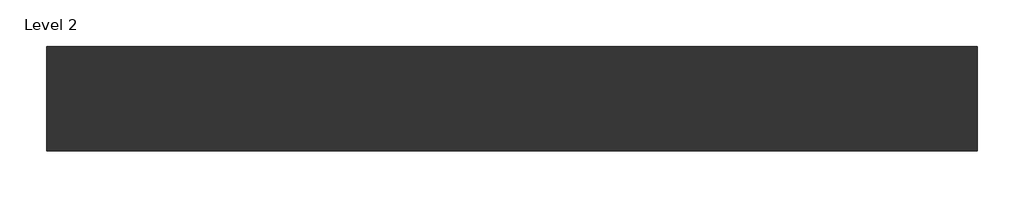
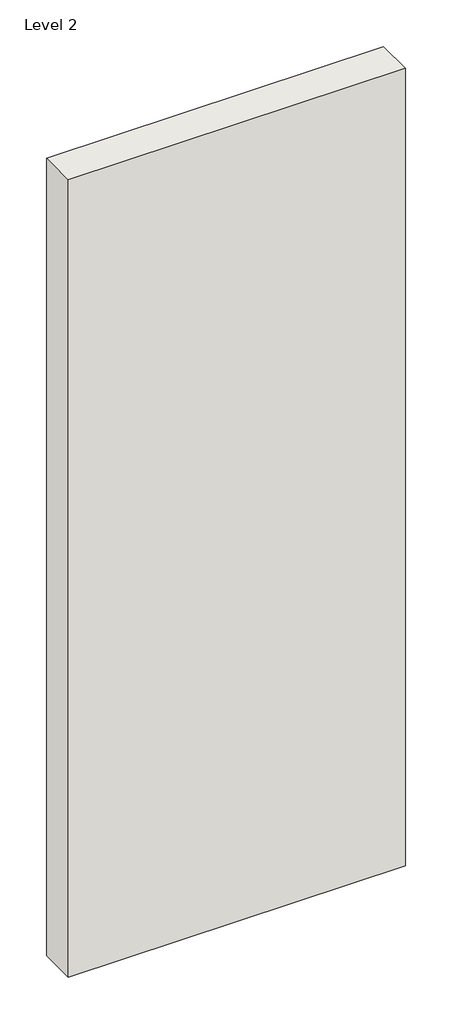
# One storey: 1 wall.
"""IFC4 building model written with IfcOpenShell, lengths in millimetres."""

from ifc_helpers import new_model, si_unit, frame, origin, place, context, project, spatial, polyline, outline, extrude, element, save

model = new_model("IFC4")

# Units and contexts
model_context = context("Model", 3, world=origin())
ifc_project = project(units=[si_unit("LENGTHUNIT", "METRE", prefix="MILLI")], contexts=[model_context])

# Site, building, storey
site = spatial("IfcSite", under=ifc_project)
building = spatial("IfcBuilding", under=site)
storey = spatial("IfcBuildingStorey", under=building, Name="Level 2", Elevation=4000.0)

# Wall
placement = place(None, origin())
element("IfcWall", 1, ObjectType="RIGIPS - 3.22.00 - EI 15, REI 15 - 4000 - 12dB", at=placement, inside=storey, context=model_context, shape_type="SweptSolid", body=[
    extrude(outline(polyline([(1000.0, -56.25), (0.0, -56.25), (0.0, 56.25), (1000.0, 56.25), (1000.0, -56.25)])), frame((0.0, 0.0, 4000.0), z_axis=(0.0, 0.0, 1.0), x_axis=(1.0, 0.0, 0.0)), (0.0, 0.0, 1.0), 2500.0),
])

save(model, "model.ifc")
